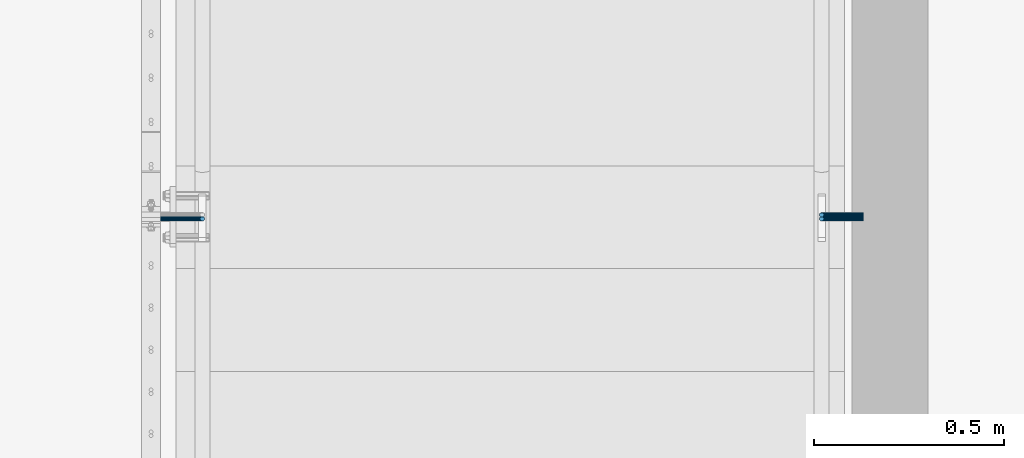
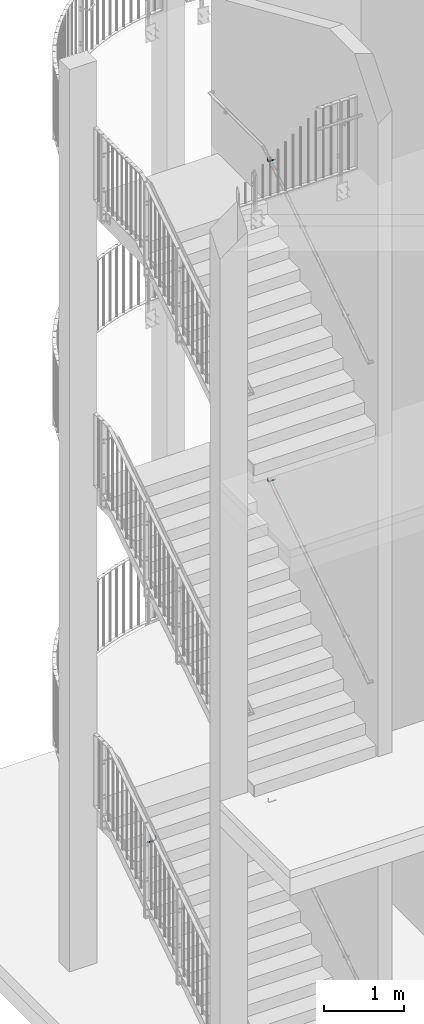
# One storey, part 132 of 296: 4 beams.
"""IFC2X3 building model written with IfcOpenShell, lengths in millimetres."""

from ifc_helpers import new_model, entity, si_unit, converted_unit, origin_with_axes, place, context, project, spatial, faceted_brep, material, element, save


model = new_model("IFC2X3")

# Units and contexts
model_context = context("Model", 3, precision=1e-09, world=origin_with_axes())
ifc_project = project(units=[si_unit("LENGTHUNIT", "METRE", prefix="MILLI"), si_unit("AREAUNIT", "SQUARE_METRE"), si_unit("VOLUMEUNIT", "CUBIC_METRE"), converted_unit("PLANEANGLEUNIT", "DEGREE", entity("IfcPlaneAngleMeasure", 0.01745329), si_unit("PLANEANGLEUNIT", "RADIAN"), dimensions=[0, 0, 0, 0, 0, 0, 0])], contexts=[model_context])

# Site, building, storey
site_placement = place(None, origin_with_axes())
site = spatial("IfcSite", under=ifc_project, at=site_placement, Name="TZD-S?d | Treppenhausgel?nder", CompositionType="ELEMENT")
building_placement = place(site_placement, origin_with_axes())
building = spatial("IfcBuilding", under=site, at=building_placement, Name="Struktur 1", CompositionType="ELEMENT")
storey_placement = place(building_placement, origin_with_axes())
storey = spatial("IfcBuildingStorey", under=building, at=storey_placement, Name="Default Storey", CompositionType="ELEMENT", Elevation=0.0)

# Beams
ifc_material = material(Name="S235JR")
beam_1_placement = place(None, origin_with_axes())
element("IfcBeam", 1, at=beam_1_placement, inside=storey, material=ifc_material, Name="-", ObjectType="-", context=model_context, shape_type="Brep", body=[
    faceted_brep([(1716.893587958, -1554.998155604, 7611.984869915), (1723.106412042, -1554.998155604, 7611.984869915), (1722.296100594, -1554.456722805, 7611.984869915), (1720.0, -1554.0, 7611.984869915), (1717.703899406, -1554.456722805, 7611.984869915), (1715.757359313, -1564.242640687, 7606.019810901), (1714.456722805, -1562.296100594, 7607.27582748), (1714.456722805, -1562.296100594, 7566.984869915), (1715.757359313, -1564.242640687, 7566.984869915), (1717.703899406, -1565.543277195, 7605.180567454), (1717.703899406, -1565.543277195, 7566.984869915), (1720.0, -1566.0, 7604.885864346), (1720.0, -1566.0, 7566.984869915), (1722.296100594, -1565.543277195, 7605.180567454), (1722.296100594, -1565.543277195, 7566.984869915), (1724.242640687, -1564.242640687, 7606.019810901), (1724.242640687, -1564.242640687, 7566.984869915), (1725.543277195, -1562.296100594, 7607.27582748), (1725.543277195, -1562.296100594, 7566.984869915), (1726.0, -1560.0, 7608.757400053), (1726.0, -1560.0, 7566.984869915), (1725.543277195, -1557.703899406, 7610.238972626), (1725.543277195, -1557.703899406, 7566.984869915), (1724.242640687, -1555.757359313, 7611.494989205), (1724.242640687, -1555.757359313, 7566.984869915), (1722.296100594, -1554.456722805, 7566.984869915), (1720.0, -1554.0, 7566.984869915), (1717.703899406, -1554.456722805, 7566.984869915), (1715.757359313, -1555.757359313, 7611.494989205), (1715.757359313, -1555.757359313, 7566.984869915), (1714.456722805, -1557.703899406, 7610.238972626), (1714.456722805, -1557.703899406, 7566.984869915), (1714.0, -1560.0, 7608.757400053), (1714.0, -1560.0, 7566.984869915), (1830.0, -1564.242640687, 7542.742229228), (1830.0, -1562.296100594, 7541.44159272), (1830.0, -1560.0, 7540.984869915), (1830.0, -1557.703899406, 7541.44159272), (1830.0, -1555.757359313, 7542.742229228), (1830.0, -1554.456722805, 7544.688769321), (1830.0, -1554.0, 7546.984869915), (1830.0, -1554.456722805, 7549.28097051), (1830.0, -1555.757359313, 7551.227510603), (1830.0, -1557.703899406, 7552.528147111), (1830.0, -1560.0, 7552.984869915), (1830.0, -1562.296100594, 7552.528147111), (1830.0, -1564.242640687, 7551.227510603), (1830.0, -1565.543277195, 7549.28097051), (1830.0, -1566.0, 7546.984869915), (1830.0, -1565.543277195, 7544.688769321), (1716.401089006, -1562.296100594, 7557.209880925), (1717.602720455, -1564.242640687, 7557.707612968), (1719.401089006, -1565.543277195, 7558.452521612), (1721.52240935, -1566.0, 7559.331201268), (1723.643729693, -1565.543277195, 7560.209880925), (1725.442098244, -1564.242640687, 7560.954789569), (1726.643729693, -1562.296100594, 7561.452521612), (1727.065686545, -1560.0, 7561.627301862), (1726.643729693, -1557.703899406, 7561.452521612), (1725.442098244, -1555.757359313, 7560.954789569), (1723.643729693, -1554.456722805, 7560.209880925), (1721.52240935, -1554.0, 7559.331201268), (1719.401089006, -1554.456722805, 7558.452521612), (1717.602720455, -1555.757359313, 7557.707612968), (1716.401089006, -1557.703899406, 7557.209880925), (1715.979132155, -1560.0, 7557.035100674), (1721.938175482, -1562.296100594, 7548.923045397), (1722.857864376, -1564.242640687, 7549.842734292), (1724.234276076, -1565.543277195, 7551.219145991), (1725.857864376, -1566.0, 7552.842734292), (1727.481452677, -1565.543277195, 7554.466322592), (1728.857864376, -1564.242640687, 7555.842734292), (1729.777553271, -1562.296100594, 7556.762423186), (1730.100505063, -1560.0, 7557.085374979), (1729.777553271, -1557.703899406, 7556.762423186), (1728.857864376, -1555.757359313, 7555.842734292), (1727.481452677, -1554.456722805, 7554.466322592), (1725.857864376, -1554.0, 7552.842734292), (1724.234276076, -1554.456722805, 7551.219145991), (1722.857864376, -1555.757359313, 7549.842734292), (1721.938175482, -1557.703899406, 7548.923045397), (1721.615223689, -1560.0, 7548.600093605), (1730.225011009, -1562.296100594, 7543.385958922), (1730.722743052, -1564.242640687, 7544.587590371), (1731.467651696, -1565.543277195, 7546.385958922), (1732.346331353, -1566.0, 7548.507279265), (1733.225011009, -1565.543277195, 7550.628599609), (1733.969919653, -1564.242640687, 7552.42696816), (1734.467651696, -1562.296100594, 7553.628599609), (1734.642431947, -1560.0, 7554.05055646), (1734.467651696, -1557.703899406, 7553.628599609), (1733.969919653, -1555.757359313, 7552.42696816), (1733.225011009, -1554.456722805, 7550.628599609), (1732.346331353, -1554.0, 7548.507279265), (1731.467651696, -1554.456722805, 7546.385958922), (1730.722743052, -1555.757359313, 7544.587590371), (1730.225011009, -1557.703899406, 7543.385958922), (1730.050230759, -1560.0, 7542.96400207), (1740.0, -1562.296100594, 7541.44159272), (1740.0, -1564.242640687, 7542.742229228), (1740.0, -1565.543277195, 7544.688769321), (1740.0, -1566.0, 7546.984869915), (1740.0, -1565.543277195, 7549.28097051), (1740.0, -1564.242640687, 7551.227510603), (1740.0, -1562.296100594, 7552.528147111), (1740.0, -1560.0, 7552.984869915), (1740.0, -1557.703899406, 7552.528147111), (1740.0, -1555.757359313, 7551.227510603), (1740.0, -1554.456722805, 7549.28097051), (1740.0, -1554.0, 7546.984869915), (1740.0, -1554.456722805, 7544.688769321), (1740.0, -1555.757359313, 7542.742229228), (1740.0, -1557.703899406, 7541.44159272), (1740.0, -1560.0, 7540.984869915)], [[[0, 1, 2, 3, 4]], [[5, 6, 7, 8]], [[9, 5, 8, 10]], [[11, 9, 10, 12]], [[13, 11, 12, 14]], [[15, 13, 14, 16]], [[17, 15, 16, 18]], [[19, 17, 18, 20]], [[21, 19, 20, 22]], [[23, 21, 22, 24]], [[1, 23, 24, 25, 2]], [[3, 2, 25, 26]], [[4, 3, 26, 27]], [[28, 0, 4, 27, 29]], [[30, 28, 29, 31]], [[32, 30, 31, 33]], [[6, 32, 33, 7]], [[17, 19, 21, 23, 1, 0, 28, 30, 32, 6, 5, 9, 11, 13, 15]], [[34, 35, 36, 37, 38, 39, 40, 41, 42, 43, 44, 45, 46, 47, 48, 49]], [[8, 7, 50, 51]], [[10, 8, 51, 52]], [[12, 10, 52, 53]], [[14, 12, 53, 54]], [[16, 14, 54, 55]], [[18, 16, 55, 56]], [[20, 18, 56, 57]], [[22, 20, 57, 58]], [[24, 22, 58, 59]], [[25, 24, 59, 60]], [[26, 25, 60, 61]], [[27, 26, 61, 62]], [[29, 27, 62, 63]], [[31, 29, 63, 64]], [[33, 31, 64, 65]], [[7, 33, 65, 50]], [[51, 50, 66, 67]], [[52, 51, 67, 68]], [[53, 52, 68, 69]], [[54, 53, 69, 70]], [[55, 54, 70, 71]], [[56, 55, 71, 72]], [[57, 56, 72, 73]], [[58, 57, 73, 74]], [[59, 58, 74, 75]], [[60, 59, 75, 76]], [[61, 60, 76, 77]], [[62, 61, 77, 78]], [[63, 62, 78, 79]], [[64, 63, 79, 80]], [[65, 64, 80, 81]], [[50, 65, 81, 66]], [[67, 66, 82, 83]], [[68, 67, 83, 84]], [[69, 68, 84, 85]], [[70, 69, 85, 86]], [[71, 70, 86, 87]], [[72, 71, 87, 88]], [[73, 72, 88, 89]], [[74, 73, 89, 90]], [[75, 74, 90, 91]], [[76, 75, 91, 92]], [[77, 76, 92, 93]], [[78, 77, 93, 94]], [[79, 78, 94, 95]], [[80, 79, 95, 96]], [[81, 80, 96, 97]], [[66, 81, 97, 82]], [[83, 82, 98, 99]], [[84, 83, 99, 100]], [[85, 84, 100, 101]], [[86, 85, 101, 102]], [[87, 86, 102, 103]], [[88, 87, 103, 104]], [[89, 88, 104, 105]], [[90, 89, 105, 106]], [[91, 90, 106, 107]], [[92, 91, 107, 108]], [[93, 92, 108, 109]], [[94, 93, 109, 110]], [[95, 94, 110, 111]], [[96, 95, 111, 112]], [[97, 96, 112, 113]], [[82, 97, 113, 98]], [[99, 98, 35, 34]], [[100, 99, 34, 49]], [[101, 100, 49, 48]], [[102, 101, 48, 47]], [[103, 102, 47, 46]], [[104, 103, 46, 45]], [[105, 104, 45, 44]], [[106, 105, 44, 43]], [[107, 106, 43, 42]], [[108, 107, 42, 41]], [[109, 108, 41, 40]], [[110, 109, 40, 39]], [[111, 110, 39, 38]], [[112, 111, 38, 37]], [[113, 112, 37, 36]], [[98, 113, 36, 35]]]),
])
beam_2_placement = place(None, origin_with_axes())
element("IfcBeam", 2, at=beam_2_placement, inside=storey, material=ifc_material, Name="-", ObjectType="-", context=model_context, shape_type="Brep", body=[
    faceted_brep([(1716.893577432, -1564.998162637, 2711.943925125), (1723.106422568, -1564.998162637, 2711.943925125), (1722.296100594, -1564.456722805, 2711.943925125), (1720.0, -1564.0, 2711.943925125), (1717.703899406, -1564.456722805, 2711.943925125), (1715.757359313, -1574.242640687, 2705.946453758), (1714.456722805, -1572.296100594, 2707.209296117), (1714.456722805, -1572.296100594, 2666.943925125), (1715.757359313, -1574.242640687, 2666.943925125), (1717.703899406, -1575.543277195, 2705.10264947), (1717.703899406, -1575.543277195, 2666.943925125), (1720.0, -1576.0, 2704.806344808), (1720.0, -1576.0, 2666.943925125), (1722.296100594, -1575.543277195, 2705.10264947), (1722.296100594, -1575.543277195, 2666.943925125), (1724.242640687, -1574.242640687, 2705.946453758), (1724.242640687, -1574.242640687, 2666.943925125), (1725.543277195, -1572.296100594, 2707.209296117), (1725.543277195, -1572.296100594, 2666.943925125), (1726.0, -1570.0, 2708.698920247), (1726.0, -1570.0, 2666.943925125), (1725.543277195, -1567.703899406, 2710.188544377), (1725.543277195, -1567.703899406, 2666.943925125), (1724.242640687, -1565.757359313, 2711.451386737), (1724.242640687, -1565.757359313, 2666.943925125), (1722.296100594, -1564.456722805, 2666.943925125), (1720.0, -1564.0, 2666.943925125), (1717.703899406, -1564.456722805, 2666.943925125), (1715.757359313, -1565.757359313, 2711.451386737), (1715.757359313, -1565.757359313, 2666.943925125), (1714.456722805, -1567.703899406, 2710.188544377), (1714.456722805, -1567.703899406, 2666.943925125), (1714.0, -1570.0, 2708.698920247), (1714.0, -1570.0, 2666.943925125), (1830.0, -1574.242640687, 2642.701284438), (1830.0, -1572.296100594, 2641.40064793), (1830.0, -1570.0, 2640.943925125), (1830.0, -1567.703899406, 2641.40064793), (1830.0, -1565.757359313, 2642.701284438), (1830.0, -1564.456722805, 2644.647824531), (1830.0, -1564.0, 2646.943925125), (1830.0, -1564.456722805, 2649.24002572), (1830.0, -1565.757359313, 2651.186565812), (1830.0, -1567.703899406, 2652.48720232), (1830.0, -1570.0, 2652.943925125), (1830.0, -1572.296100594, 2652.48720232), (1830.0, -1574.242640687, 2651.186565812), (1830.0, -1575.543277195, 2649.24002572), (1830.0, -1576.0, 2646.943925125), (1830.0, -1575.543277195, 2644.647824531), (1716.401089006, -1572.296100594, 2657.168936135), (1717.602720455, -1574.242640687, 2657.666668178), (1719.401089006, -1575.543277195, 2658.411576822), (1721.52240935, -1576.0, 2659.290256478), (1723.643729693, -1575.543277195, 2660.168936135), (1725.442098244, -1574.242640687, 2660.913844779), (1726.643729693, -1572.296100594, 2661.411576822), (1727.065686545, -1570.0, 2661.586357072), (1726.643729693, -1567.703899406, 2661.411576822), (1725.442098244, -1565.757359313, 2660.913844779), (1723.643729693, -1564.456722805, 2660.168936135), (1721.52240935, -1564.0, 2659.290256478), (1719.401089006, -1564.456722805, 2658.411576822), (1717.602720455, -1565.757359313, 2657.666668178), (1716.401089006, -1567.703899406, 2657.168936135), (1715.979132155, -1570.0, 2656.994155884), (1721.938175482, -1572.296100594, 2648.882100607), (1722.857864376, -1574.242640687, 2649.801789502), (1724.234276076, -1575.543277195, 2651.178201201), (1725.857864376, -1576.0, 2652.801789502), (1727.481452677, -1575.543277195, 2654.425377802), (1728.857864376, -1574.242640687, 2655.801789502), (1729.777553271, -1572.296100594, 2656.721478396), (1730.100505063, -1570.0, 2657.044430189), (1729.777553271, -1567.703899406, 2656.721478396), (1728.857864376, -1565.757359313, 2655.801789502), (1727.481452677, -1564.456722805, 2654.425377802), (1725.857864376, -1564.0, 2652.801789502), (1724.234276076, -1564.456722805, 2651.178201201), (1722.857864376, -1565.757359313, 2649.801789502), (1721.938175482, -1567.703899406, 2648.882100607), (1721.615223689, -1570.0, 2648.559148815), (1730.225011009, -1572.296100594, 2643.345014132), (1730.722743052, -1574.242640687, 2644.546645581), (1731.467651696, -1575.543277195, 2646.345014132), (1732.346331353, -1576.0, 2648.466334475), (1733.225011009, -1575.543277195, 2650.587654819), (1733.969919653, -1574.242640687, 2652.38602337), (1734.467651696, -1572.296100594, 2653.587654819), (1734.642431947, -1570.0, 2654.00961167), (1734.467651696, -1567.703899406, 2653.587654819), (1733.969919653, -1565.757359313, 2652.38602337), (1733.225011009, -1564.456722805, 2650.587654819), (1732.346331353, -1564.0, 2648.466334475), (1731.467651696, -1564.456722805, 2646.345014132), (1730.722743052, -1565.757359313, 2644.546645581), (1730.225011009, -1567.703899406, 2643.345014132), (1730.050230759, -1570.0, 2642.92305728), (1740.0, -1572.296100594, 2641.40064793), (1740.0, -1574.242640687, 2642.701284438), (1740.0, -1575.543277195, 2644.647824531), (1740.0, -1576.0, 2646.943925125), (1740.0, -1575.543277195, 2649.24002572), (1740.0, -1574.242640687, 2651.186565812), (1740.0, -1572.296100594, 2652.48720232), (1740.0, -1570.0, 2652.943925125), (1740.0, -1567.703899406, 2652.48720232), (1740.0, -1565.757359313, 2651.186565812), (1740.0, -1564.456722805, 2649.24002572), (1740.0, -1564.0, 2646.943925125), (1740.0, -1564.456722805, 2644.647824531), (1740.0, -1565.757359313, 2642.701284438), (1740.0, -1567.703899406, 2641.40064793), (1740.0, -1570.0, 2640.943925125)], [[[0, 1, 2, 3, 4]], [[5, 6, 7, 8]], [[9, 5, 8, 10]], [[11, 9, 10, 12]], [[13, 11, 12, 14]], [[15, 13, 14, 16]], [[17, 15, 16, 18]], [[19, 17, 18, 20]], [[21, 19, 20, 22]], [[23, 21, 22, 24]], [[1, 23, 24, 25, 2]], [[3, 2, 25, 26]], [[4, 3, 26, 27]], [[28, 0, 4, 27, 29]], [[30, 28, 29, 31]], [[32, 30, 31, 33]], [[6, 32, 33, 7]], [[17, 19, 21, 23, 1, 0, 28, 30, 32, 6, 5, 9, 11, 13, 15]], [[34, 35, 36, 37, 38, 39, 40, 41, 42, 43, 44, 45, 46, 47, 48, 49]], [[8, 7, 50, 51]], [[10, 8, 51, 52]], [[12, 10, 52, 53]], [[14, 12, 53, 54]], [[16, 14, 54, 55]], [[18, 16, 55, 56]], [[20, 18, 56, 57]], [[22, 20, 57, 58]], [[24, 22, 58, 59]], [[25, 24, 59, 60]], [[26, 25, 60, 61]], [[27, 26, 61, 62]], [[29, 27, 62, 63]], [[31, 29, 63, 64]], [[33, 31, 64, 65]], [[7, 33, 65, 50]], [[51, 50, 66, 67]], [[52, 51, 67, 68]], [[53, 52, 68, 69]], [[54, 53, 69, 70]], [[55, 54, 70, 71]], [[56, 55, 71, 72]], [[57, 56, 72, 73]], [[58, 57, 73, 74]], [[59, 58, 74, 75]], [[60, 59, 75, 76]], [[61, 60, 76, 77]], [[62, 61, 77, 78]], [[63, 62, 78, 79]], [[64, 63, 79, 80]], [[65, 64, 80, 81]], [[50, 65, 81, 66]], [[67, 66, 82, 83]], [[68, 67, 83, 84]], [[69, 68, 84, 85]], [[70, 69, 85, 86]], [[71, 70, 86, 87]], [[72, 71, 87, 88]], [[73, 72, 88, 89]], [[74, 73, 89, 90]], [[75, 74, 90, 91]], [[76, 75, 91, 92]], [[77, 76, 92, 93]], [[78, 77, 93, 94]], [[79, 78, 94, 95]], [[80, 79, 95, 96]], [[81, 80, 96, 97]], [[66, 81, 97, 82]], [[83, 82, 98, 99]], [[84, 83, 99, 100]], [[85, 84, 100, 101]], [[86, 85, 101, 102]], [[87, 86, 102, 103]], [[88, 87, 103, 104]], [[89, 88, 104, 105]], [[90, 89, 105, 106]], [[91, 90, 106, 107]], [[92, 91, 107, 108]], [[93, 92, 108, 109]], [[94, 93, 109, 110]], [[95, 94, 110, 111]], [[96, 95, 111, 112]], [[97, 96, 112, 113]], [[82, 97, 113, 98]], [[99, 98, 35, 34]], [[100, 99, 34, 49]], [[101, 100, 49, 48]], [[102, 101, 48, 47]], [[103, 102, 47, 46]], [[104, 103, 46, 45]], [[105, 104, 45, 44]], [[106, 105, 44, 43]], [[107, 106, 43, 42]], [[108, 107, 42, 41]], [[109, 108, 41, 40]], [[110, 109, 40, 39]], [[111, 110, 39, 38]], [[112, 111, 38, 37]], [[113, 112, 37, 36]], [[98, 113, 36, 35]]]),
])
beam_3_placement = place(None, origin_with_axes())
element("IfcBeam", 3, at=beam_3_placement, inside=storey, material=ifc_material, Name="-", ObjectType="-", context=model_context, shape_type="Brep", body=[
    faceted_brep([(1716.893581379, -1554.99816, 12508.070241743), (1723.106418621, -1554.99816, 12508.070241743), (1722.296100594, -1554.456722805, 12508.070241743), (1720.0, -1554.0, 12508.070241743), (1717.703899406, -1554.456722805, 12508.070241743), (1715.757359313, -1564.242640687, 12502.084972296), (1714.456722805, -1562.296100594, 12503.345245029), (1714.456722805, -1562.296100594, 12463.070241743), (1715.757359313, -1564.242640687, 12463.070241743), (1717.703899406, -1565.543277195, 12501.242884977), (1717.703899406, -1565.543277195, 12463.070241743), (1720.0, -1566.0, 12500.947183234), (1720.0, -1566.0, 12463.070241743), (1722.296100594, -1565.543277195, 12501.242884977), (1722.296100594, -1565.543277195, 12463.070241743), (1724.242640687, -1564.242640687, 12502.084972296), (1724.242640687, -1564.242640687, 12463.070241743), (1725.543277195, -1562.296100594, 12503.345245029), (1725.543277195, -1562.296100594, 12463.070241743), (1726.0, -1560.0, 12504.831838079), (1726.0, -1560.0, 12463.070241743), (1725.543277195, -1557.703899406, 12506.318431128), (1725.543277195, -1557.703899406, 12463.070241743), (1724.242640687, -1555.757359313, 12507.578703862), (1724.242640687, -1555.757359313, 12463.070241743), (1722.296100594, -1554.456722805, 12463.070241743), (1720.0, -1554.0, 12463.070241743), (1717.703899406, -1554.456722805, 12463.070241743), (1715.757359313, -1555.757359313, 12507.578703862), (1715.757359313, -1555.757359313, 12463.070241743), (1714.456722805, -1557.703899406, 12506.318431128), (1714.456722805, -1557.703899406, 12463.070241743), (1714.0, -1560.0, 12504.831838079), (1714.0, -1560.0, 12463.070241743), (1830.0, -1564.242640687, 12438.827601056), (1830.0, -1562.296100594, 12437.526964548), (1830.0, -1560.0, 12437.070241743), (1830.0, -1557.703899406, 12437.526964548), (1830.0, -1555.757359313, 12438.827601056), (1830.0, -1554.456722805, 12440.774141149), (1830.0, -1554.0, 12443.070241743), (1830.0, -1554.456722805, 12445.366342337), (1830.0, -1555.757359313, 12447.31288243), (1830.0, -1557.703899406, 12448.613518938), (1830.0, -1560.0, 12449.070241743), (1830.0, -1562.296100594, 12448.613518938), (1830.0, -1564.242640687, 12447.31288243), (1830.0, -1565.543277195, 12445.366342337), (1830.0, -1566.0, 12443.070241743), (1830.0, -1565.543277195, 12440.774141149), (1716.401089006, -1562.296100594, 12453.295252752), (1717.602720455, -1564.242640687, 12453.792984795), (1719.401089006, -1565.543277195, 12454.537893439), (1721.52240935, -1566.0, 12455.416573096), (1723.643729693, -1565.543277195, 12456.295252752), (1725.442098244, -1564.242640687, 12457.040161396), (1726.643729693, -1562.296100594, 12457.537893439), (1727.065686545, -1560.0, 12457.71267369), (1726.643729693, -1557.703899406, 12457.537893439), (1725.442098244, -1555.757359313, 12457.040161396), (1723.643729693, -1554.456722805, 12456.295252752), (1721.52240935, -1554.0, 12455.416573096), (1719.401089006, -1554.456722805, 12454.537893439), (1717.602720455, -1555.757359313, 12453.792984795), (1716.401089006, -1557.703899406, 12453.295252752), (1715.979132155, -1560.0, 12453.120472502), (1721.938175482, -1562.296100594, 12445.008417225), (1722.857864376, -1564.242640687, 12445.928106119), (1724.234276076, -1565.543277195, 12447.304517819), (1725.857864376, -1566.0, 12448.928106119), (1727.481452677, -1565.543277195, 12450.55169442), (1728.857864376, -1564.242640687, 12451.928106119), (1729.777553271, -1562.296100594, 12452.847795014), (1730.100505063, -1560.0, 12453.170746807), (1729.777553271, -1557.703899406, 12452.847795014), (1728.857864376, -1555.757359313, 12451.928106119), (1727.481452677, -1554.456722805, 12450.55169442), (1725.857864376, -1554.0, 12448.928106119), (1724.234276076, -1554.456722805, 12447.304517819), (1722.857864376, -1555.757359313, 12445.928106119), (1721.938175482, -1557.703899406, 12445.008417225), (1721.615223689, -1560.0, 12444.685465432), (1730.225011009, -1562.296100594, 12439.471330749), (1730.722743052, -1564.242640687, 12440.672962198), (1731.467651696, -1565.543277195, 12442.471330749), (1732.346331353, -1566.0, 12444.592651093), (1733.225011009, -1565.543277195, 12446.713971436), (1733.969919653, -1564.242640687, 12448.512339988), (1734.467651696, -1562.296100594, 12449.713971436), (1734.642431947, -1560.0, 12450.135928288), (1734.467651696, -1557.703899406, 12449.713971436), (1733.969919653, -1555.757359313, 12448.512339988), (1733.225011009, -1554.456722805, 12446.713971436), (1732.346331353, -1554.0, 12444.592651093), (1731.467651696, -1554.456722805, 12442.471330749), (1730.722743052, -1555.757359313, 12440.672962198), (1730.225011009, -1557.703899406, 12439.471330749), (1730.050230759, -1560.0, 12439.049373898), (1740.0, -1562.296100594, 12437.526964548), (1740.0, -1564.242640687, 12438.827601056), (1740.0, -1565.543277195, 12440.774141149), (1740.0, -1566.0, 12443.070241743), (1740.0, -1565.543277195, 12445.366342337), (1740.0, -1564.242640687, 12447.31288243), (1740.0, -1562.296100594, 12448.613518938), (1740.0, -1560.0, 12449.070241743), (1740.0, -1557.703899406, 12448.613518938), (1740.0, -1555.757359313, 12447.31288243), (1740.0, -1554.456722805, 12445.366342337), (1740.0, -1554.0, 12443.070241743), (1740.0, -1554.456722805, 12440.774141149), (1740.0, -1555.757359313, 12438.827601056), (1740.0, -1557.703899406, 12437.526964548), (1740.0, -1560.0, 12437.070241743)], [[[0, 1, 2, 3, 4]], [[5, 6, 7, 8]], [[9, 5, 8, 10]], [[11, 9, 10, 12]], [[13, 11, 12, 14]], [[15, 13, 14, 16]], [[17, 15, 16, 18]], [[19, 17, 18, 20]], [[21, 19, 20, 22]], [[23, 21, 22, 24]], [[1, 23, 24, 25, 2]], [[3, 2, 25, 26]], [[4, 3, 26, 27]], [[28, 0, 4, 27, 29]], [[30, 28, 29, 31]], [[32, 30, 31, 33]], [[6, 32, 33, 7]], [[17, 19, 21, 23, 1, 0, 28, 30, 32, 6, 5, 9, 11, 13, 15]], [[34, 35, 36, 37, 38, 39, 40, 41, 42, 43, 44, 45, 46, 47, 48, 49]], [[8, 7, 50, 51]], [[10, 8, 51, 52]], [[12, 10, 52, 53]], [[14, 12, 53, 54]], [[16, 14, 54, 55]], [[18, 16, 55, 56]], [[20, 18, 56, 57]], [[22, 20, 57, 58]], [[24, 22, 58, 59]], [[25, 24, 59, 60]], [[26, 25, 60, 61]], [[27, 26, 61, 62]], [[29, 27, 62, 63]], [[31, 29, 63, 64]], [[33, 31, 64, 65]], [[7, 33, 65, 50]], [[51, 50, 66, 67]], [[52, 51, 67, 68]], [[53, 52, 68, 69]], [[54, 53, 69, 70]], [[55, 54, 70, 71]], [[56, 55, 71, 72]], [[57, 56, 72, 73]], [[58, 57, 73, 74]], [[59, 58, 74, 75]], [[60, 59, 75, 76]], [[61, 60, 76, 77]], [[62, 61, 77, 78]], [[63, 62, 78, 79]], [[64, 63, 79, 80]], [[65, 64, 80, 81]], [[50, 65, 81, 66]], [[67, 66, 82, 83]], [[68, 67, 83, 84]], [[69, 68, 84, 85]], [[70, 69, 85, 86]], [[71, 70, 86, 87]], [[72, 71, 87, 88]], [[73, 72, 88, 89]], [[74, 73, 89, 90]], [[75, 74, 90, 91]], [[76, 75, 91, 92]], [[77, 76, 92, 93]], [[78, 77, 93, 94]], [[79, 78, 94, 95]], [[80, 79, 95, 96]], [[81, 80, 96, 97]], [[66, 81, 97, 82]], [[83, 82, 98, 99]], [[84, 83, 99, 100]], [[85, 84, 100, 101]], [[86, 85, 101, 102]], [[87, 86, 102, 103]], [[88, 87, 103, 104]], [[89, 88, 104, 105]], [[90, 89, 105, 106]], [[91, 90, 106, 107]], [[92, 91, 107, 108]], [[93, 92, 108, 109]], [[94, 93, 109, 110]], [[95, 94, 110, 111]], [[96, 95, 111, 112]], [[97, 96, 112, 113]], [[82, 97, 113, 98]], [[99, 98, 35, 34]], [[100, 99, 34, 49]], [[101, 100, 49, 48]], [[102, 101, 48, 47]], [[103, 102, 47, 46]], [[104, 103, 46, 45]], [[105, 104, 45, 44]], [[106, 105, 44, 43]], [[107, 106, 43, 42]], [[108, 107, 42, 41]], [[109, 108, 41, 40]], [[110, 109, 40, 39]], [[111, 110, 39, 38]], [[112, 111, 38, 37]], [[113, 112, 37, 36]], [[98, 113, 36, 35]]]),
])
beam_4_placement = place(None, origin_with_axes())
element("IfcBeam", 4, at=beam_4_placement, inside=storey, material=ifc_material, Name="-", ObjectType="-", context=model_context, shape_type="Brep", body=[
    faceted_brep([(86.893577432, -1564.998162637, 2711.943925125), (93.106422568, -1564.998162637, 2711.943925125), (92.296100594, -1564.456722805, 2711.943925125), (90.0, -1564.0, 2711.943925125), (87.703899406, -1564.456722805, 2711.943925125), (95.543277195, -1572.296100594, 2707.209296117), (94.242640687, -1574.242640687, 2705.946453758), (94.242640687, -1574.242640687, 2666.943925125), (95.543277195, -1572.296100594, 2666.943925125), (92.296100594, -1575.543277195, 2705.10264947), (92.296100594, -1575.543277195, 2666.943925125), (90.0, -1576.0, 2704.806344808), (90.0, -1576.0, 2666.943925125), (87.703899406, -1575.543277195, 2705.10264947), (87.703899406, -1575.543277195, 2666.943925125), (85.757359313, -1574.242640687, 2705.946453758), (85.757359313, -1574.242640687, 2666.943925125), (84.456722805, -1572.296100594, 2707.209296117), (84.456722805, -1572.296100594, 2666.943925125), (84.0, -1570.0, 2708.698920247), (84.0, -1570.0, 2666.943925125), (84.456722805, -1567.703899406, 2710.188544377), (84.456722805, -1567.703899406, 2666.943925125), (85.757359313, -1565.757359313, 2711.451386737), (85.757359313, -1565.757359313, 2666.943925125), (87.703899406, -1564.456722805, 2666.943925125), (90.0, -1564.0, 2666.943925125), (92.296100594, -1564.456722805, 2666.943925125), (94.242640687, -1565.757359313, 2711.451386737), (94.242640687, -1565.757359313, 2666.943925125), (95.543277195, -1567.703899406, 2710.188544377), (95.543277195, -1567.703899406, 2666.943925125), (96.0, -1570.0, 2708.698920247), (96.0, -1570.0, 2666.943925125), (-20.0, -1572.296100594, 2641.40064793), (-20.0, -1574.242640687, 2642.701284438), (-20.0, -1575.543277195, 2644.647824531), (-20.0, -1576.0, 2646.943925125), (-20.0, -1575.543277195, 2649.24002572), (-20.0, -1574.242640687, 2651.186565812), (-20.0, -1572.296100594, 2652.48720232), (-20.0, -1570.0, 2652.943925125), (-20.0, -1567.703899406, 2652.48720232), (-20.0, -1565.757359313, 2651.186565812), (-20.0, -1564.456722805, 2649.24002572), (-20.0, -1564.0, 2646.943925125), (-20.0, -1564.456722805, 2644.647824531), (-20.0, -1565.757359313, 2642.701284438), (-20.0, -1567.703899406, 2641.40064793), (-20.0, -1570.0, 2640.943925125), (92.397279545, -1574.242640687, 2657.666668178), (93.598910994, -1572.296100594, 2657.168936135), (90.598910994, -1575.543277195, 2658.411576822), (88.47759065, -1576.0, 2659.290256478), (86.356270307, -1575.543277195, 2660.168936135), (84.557901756, -1574.242640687, 2660.913844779), (83.356270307, -1572.296100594, 2661.411576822), (82.934313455, -1570.0, 2661.586357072), (83.356270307, -1567.703899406, 2661.411576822), (84.557901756, -1565.757359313, 2660.913844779), (86.356270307, -1564.456722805, 2660.168936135), (88.47759065, -1564.0, 2659.290256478), (90.598910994, -1564.456722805, 2658.411576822), (92.397279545, -1565.757359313, 2657.666668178), (93.598910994, -1567.703899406, 2657.168936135), (94.020867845, -1570.0, 2656.994155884), (87.142135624, -1574.242640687, 2649.801789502), (88.061824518, -1572.296100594, 2648.882100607), (85.765723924, -1575.543277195, 2651.178201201), (84.142135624, -1576.0, 2652.801789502), (82.518547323, -1575.543277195, 2654.425377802), (81.142135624, -1574.242640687, 2655.801789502), (80.222446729, -1572.296100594, 2656.721478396), (79.899494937, -1570.0, 2657.044430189), (80.222446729, -1567.703899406, 2656.721478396), (81.142135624, -1565.757359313, 2655.801789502), (82.518547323, -1564.456722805, 2654.425377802), (84.142135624, -1564.0, 2652.801789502), (85.765723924, -1564.456722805, 2651.178201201), (87.142135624, -1565.757359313, 2649.801789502), (88.061824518, -1567.703899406, 2648.882100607), (88.384776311, -1570.0, 2648.559148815), (79.277256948, -1574.242640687, 2644.546645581), (79.774988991, -1572.296100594, 2643.345014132), (78.532348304, -1575.543277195, 2646.345014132), (77.653668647, -1576.0, 2648.466334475), (76.774988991, -1575.543277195, 2650.587654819), (76.030080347, -1574.242640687, 2652.38602337), (75.532348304, -1572.296100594, 2653.587654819), (75.357568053, -1570.0, 2654.00961167), (75.532348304, -1567.703899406, 2653.587654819), (76.030080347, -1565.757359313, 2652.38602337), (76.774988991, -1564.456722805, 2650.587654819), (77.653668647, -1564.0, 2648.466334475), (78.532348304, -1564.456722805, 2646.345014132), (79.277256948, -1565.757359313, 2644.546645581), (79.774988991, -1567.703899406, 2643.345014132), (79.949769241, -1570.0, 2642.92305728), (70.0, -1574.242640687, 2642.701284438), (70.0, -1572.296100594, 2641.40064793), (70.0, -1575.543277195, 2644.647824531), (70.0, -1576.0, 2646.943925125), (70.0, -1575.543277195, 2649.24002572), (70.0, -1574.242640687, 2651.186565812), (70.0, -1572.296100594, 2652.48720232), (70.0, -1570.0, 2652.943925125), (70.0, -1567.703899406, 2652.48720232), (70.0, -1565.757359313, 2651.186565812), (70.0, -1564.456722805, 2649.24002572), (70.0, -1564.0, 2646.943925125), (70.0, -1564.456722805, 2644.647824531), (70.0, -1565.757359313, 2642.701284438), (70.0, -1567.703899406, 2641.40064793), (70.0, -1570.0, 2640.943925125)], [[[0, 1, 2, 3, 4]], [[5, 6, 7, 8]], [[6, 9, 10, 7]], [[9, 11, 12, 10]], [[11, 13, 14, 12]], [[13, 15, 16, 14]], [[15, 17, 18, 16]], [[17, 19, 20, 18]], [[19, 21, 22, 20]], [[21, 23, 24, 22]], [[23, 0, 4, 25, 24]], [[4, 3, 26, 25]], [[3, 2, 27, 26]], [[1, 28, 29, 27, 2]], [[28, 30, 31, 29]], [[30, 32, 33, 31]], [[32, 5, 8, 33]], [[19, 17, 15, 13, 11, 9, 6, 5, 32, 30, 28, 1, 0, 23, 21]], [[34, 35, 36, 37, 38, 39, 40, 41, 42, 43, 44, 45, 46, 47, 48, 49]], [[8, 7, 50, 51]], [[7, 10, 52, 50]], [[10, 12, 53, 52]], [[12, 14, 54, 53]], [[14, 16, 55, 54]], [[16, 18, 56, 55]], [[18, 20, 57, 56]], [[20, 22, 58, 57]], [[22, 24, 59, 58]], [[24, 25, 60, 59]], [[25, 26, 61, 60]], [[26, 27, 62, 61]], [[27, 29, 63, 62]], [[29, 31, 64, 63]], [[31, 33, 65, 64]], [[33, 8, 51, 65]], [[51, 50, 66, 67]], [[50, 52, 68, 66]], [[52, 53, 69, 68]], [[53, 54, 70, 69]], [[54, 55, 71, 70]], [[55, 56, 72, 71]], [[56, 57, 73, 72]], [[57, 58, 74, 73]], [[58, 59, 75, 74]], [[59, 60, 76, 75]], [[60, 61, 77, 76]], [[61, 62, 78, 77]], [[62, 63, 79, 78]], [[63, 64, 80, 79]], [[64, 65, 81, 80]], [[65, 51, 67, 81]], [[67, 66, 82, 83]], [[66, 68, 84, 82]], [[68, 69, 85, 84]], [[69, 70, 86, 85]], [[70, 71, 87, 86]], [[71, 72, 88, 87]], [[72, 73, 89, 88]], [[73, 74, 90, 89]], [[74, 75, 91, 90]], [[75, 76, 92, 91]], [[76, 77, 93, 92]], [[77, 78, 94, 93]], [[78, 79, 95, 94]], [[79, 80, 96, 95]], [[80, 81, 97, 96]], [[81, 67, 83, 97]], [[83, 82, 98, 99]], [[82, 84, 100, 98]], [[84, 85, 101, 100]], [[85, 86, 102, 101]], [[86, 87, 103, 102]], [[87, 88, 104, 103]], [[88, 89, 105, 104]], [[89, 90, 106, 105]], [[90, 91, 107, 106]], [[91, 92, 108, 107]], [[92, 93, 109, 108]], [[93, 94, 110, 109]], [[94, 95, 111, 110]], [[95, 96, 112, 111]], [[96, 97, 113, 112]], [[97, 83, 99, 113]], [[99, 98, 35, 34]], [[98, 100, 36, 35]], [[100, 101, 37, 36]], [[101, 102, 38, 37]], [[102, 103, 39, 38]], [[103, 104, 40, 39]], [[104, 105, 41, 40]], [[105, 106, 42, 41]], [[106, 107, 43, 42]], [[107, 108, 44, 43]], [[108, 109, 45, 44]], [[109, 110, 46, 45]], [[110, 111, 47, 46]], [[111, 112, 48, 47]], [[112, 113, 49, 48]], [[113, 99, 34, 49]]]),
])

save(model, "model.ifc")
